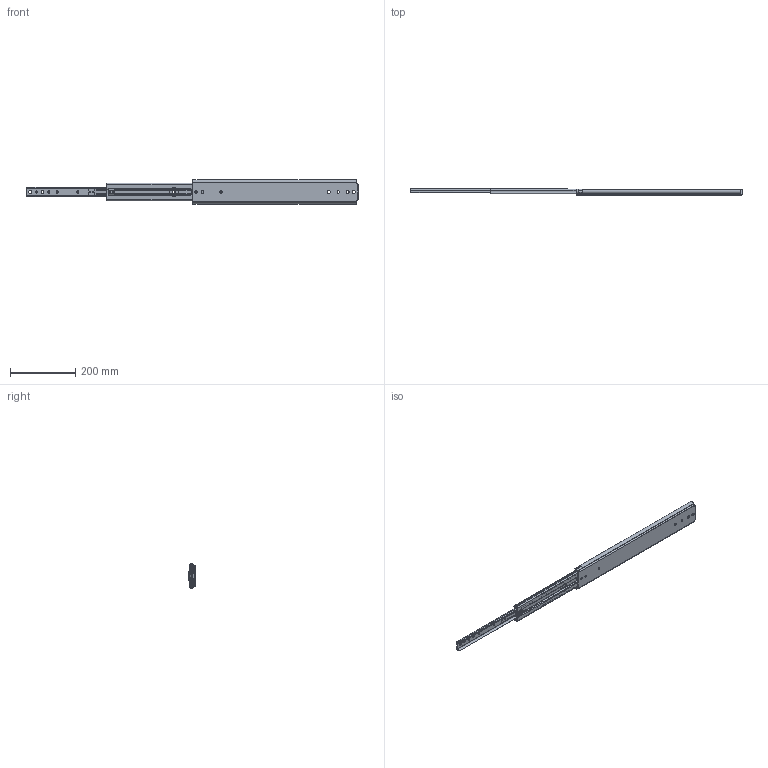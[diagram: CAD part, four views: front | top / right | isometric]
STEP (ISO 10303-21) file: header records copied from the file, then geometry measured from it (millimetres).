
FILE_DESCRIPTION((''),'2;1');
FILE_NAME('DG-76-02-20_ASM','2023-05-15T',('jishu015'),(''),'PRO/ENGINEER BY PARAMETRIC TECHNOLOGY CORPORATION, 2010280','PRO/ENGINEER BY PARAMETRIC TECHNOLOGY CORPORATION, 2010280','');
FILE_SCHEMA(('CONFIG_CONTROL_DESIGN'));
Length unit declared in the file: millimetre
Products named in the file (18): KP-76-04WAIKE3______________; 1076-WAIKEZIDANJIAO31__; WAIK72_______________ASM; 1076XIAOZHUTIAO1______________; 163______________; 1076XIAOZHUTIAO1_______________ASM; KP-76-04ZHONGGUI3______________; 76CHANGGUIZHONGGUIJIAO31_____; 3X6WODIN3______________; PJ-76-33______________; 76-XIAOZHUJIA3______________; GANGZHU-XIAO3______________; ZHUJIA-XIAO3_______________ASM; ZHONGGUI3_______________ASM; KP-76-04NEIGUI3______________; XIN-TANPIAN______________; NEIGUI3_______________ASM; DG-76-02-20_ASM
Assembly tree (43 placements, depth 4):
  DG-76-02-20_ASM
    WAIK72_______________ASM
      KP-76-04WAIKE3______________
      1076-WAIKEZIDANJIAO31__  x2
    1076XIAOZHUTIAO1_______________ASM  x2
      1076XIAOZHUTIAO1______________
      163______________
    ZHONGGUI3_______________ASM
      KP-76-04ZHONGGUI3______________
      76CHANGGUIZHONGGUIJIAO31_____
      3X6WODIN3______________
      PJ-76-33______________
      ZHUJIA-XIAO3_______________ASM
        76-XIAOZHUJIA3______________
        GANGZHU-XIAO3______________  x18
    NEIGUI3_______________ASM
      KP-76-04NEIGUI3______________
      XIN-TANPIAN______________
Bounding box: 1016 x 19.5 x 75.3 mm (x, y, z)
Volume: 327433.7 mm3; surface area: 316013.1 mm2
Topology: 46 solids, 46 shells, 1170 faces, 3610 edges, 2301 vertices
Faces by surface type: plane 661, cylinder 394, sphere 70, extrusion 27, cone 18
Entity records: 36456 total; most frequent: CARTESIAN_POINT 7940, ORIENTED_EDGE 6192, DIRECTION 5657, EDGE_CURVE 3096, VERTEX_POINT 2029, VECTOR 1903, AXIS2_PLACEMENT_3D 1877, LINE 1876
